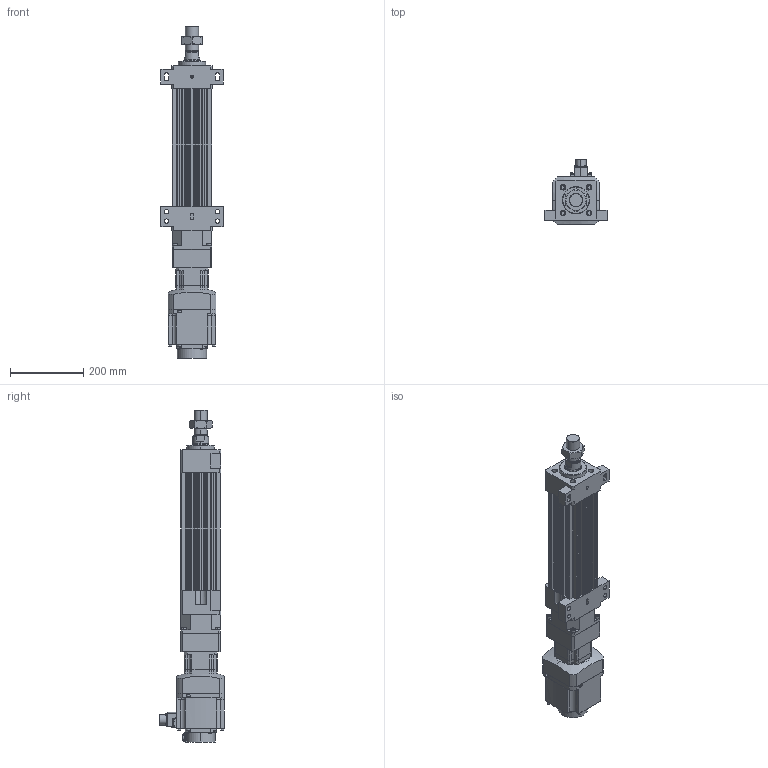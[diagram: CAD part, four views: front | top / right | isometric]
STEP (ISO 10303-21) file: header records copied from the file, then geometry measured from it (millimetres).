
FILE_DESCRIPTION (( 'STEP AP203' ), '1' );
FILE_NAME ('HES110NS(HS)-S150-W010G00-M-FFB.STEP', '2023-01-27T05:27:20', ( 'tms' ), ( '' ), 'SwSTEP 2.0', 'SolidWorks 2013', '' );
FILE_SCHEMA (( 'CONFIG_CONTROL_DESIGN' ));
Length unit declared in the file: millimetre
Products named in the file (8): M36X1.5P; HG-SR102; HES110-S150-G090-FFB; HES110NS(HS)-S150-W010G00-M-FFB; AB0901; P0401301004; AB090-003[HG-SR102B]; HES110 ROD M ST150
Assembly tree (7 placements, depth 3):
  HES110NS(HS)-S150-W010G00-M-FFB
    HES110-S150-G090-FFB
    HES110 ROD M ST150
    M36X1.5P
    AB090-003[HG-SR102B]
      AB0901
      P0401301004
    HG-SR102
Bounding box: 170 x 177.49 x 908.5 mm (x, y, z)
Volume: 6013361.7 mm3; surface area: 773995 mm2
Topology: 4 solids, 15 shells, 1189 faces, 3015 edges, 1964 vertices
Faces by surface type: plane 570, cylinder 529, cone 78, bspline 8, torus 4
Entity records: 37852 total; most frequent: CARTESIAN_POINT 7358, DIRECTION 6498, ORIENTED_EDGE 5982, EDGE_CURVE 3001, AXIS2_PLACEMENT_3D 2375, VERTEX_POINT 1964, LINE 1748, VECTOR 1748
